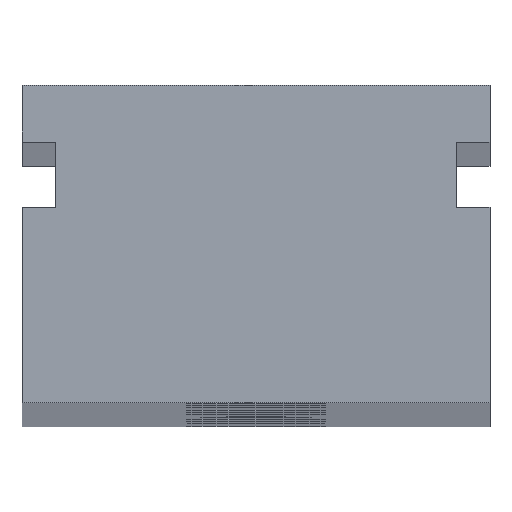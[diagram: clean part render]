
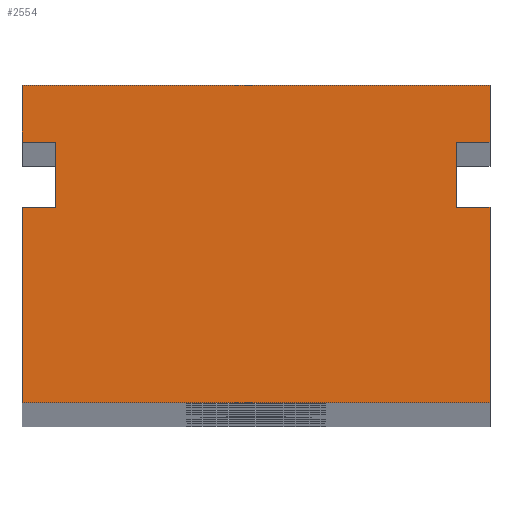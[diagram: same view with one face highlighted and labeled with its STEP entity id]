
A CAD part, top view. The second image highlights one B-rep face of the part: STEP entity #2554.
In plain terms, the highlighted planar face has unit normal (0, 0, 1).
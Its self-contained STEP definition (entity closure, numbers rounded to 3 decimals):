
#16 = EDGE_LOOP ( 'NONE', ( #484, #798, #1123, #2591, #695, #2480, #2596, #2615, #2637, #1250, #2539, #2333 ) ) ;
#135 = CARTESIAN_POINT ( 'NONE',  ( 4.915, 0.9, 340. ) ) ;
#171 = FACE_OUTER_BOUND ( 'NONE', #16, .T. ) ;
#189 = VECTOR ( 'NONE', #2484, 1000. ) ;
#193 = VERTEX_POINT ( 'NONE', #2394 ) ;
#207 = VERTEX_POINT ( 'NONE', #1769 ) ;
#256 = EDGE_CURVE ( 'NONE', #966, #765, #2156, .T. ) ;
#301 = DIRECTION ( 'NONE',  ( -1., 0., 0. ) ) ;
#306 = CARTESIAN_POINT ( 'NONE',  ( -4.915, 0.9, 340. ) ) ;
#316 = CARTESIAN_POINT ( 'NONE',  ( 5.75, 0.9, 340. ) ) ;
#329 = CARTESIAN_POINT ( 'NONE',  ( 5.75, 3.9, 340. ) ) ;
#352 = VERTEX_POINT ( 'NONE', #2268 ) ;
#353 = DIRECTION ( 'NONE',  ( 1., 0., 0. ) ) ;
#370 = LINE ( 'NONE', #1791, #1983 ) ;
#375 = LINE ( 'NONE', #2232, #1864 ) ;
#377 = VECTOR ( 'NONE', #353, 1000. ) ;
#395 = CARTESIAN_POINT ( 'NONE',  ( -5.75, -3.9, 340. ) ) ;
#484 = ORIENTED_EDGE ( 'NONE', *, *, #1409, .T. ) ;
#572 = LINE ( 'NONE', #2656, #748 ) ;
#611 = EDGE_CURVE ( 'NONE', #207, #1715, #2453, .T. ) ;
#683 = CARTESIAN_POINT ( 'NONE',  ( 5.75, -3.9, 340. ) ) ;
#695 = ORIENTED_EDGE ( 'NONE', *, *, #1926, .T. ) ;
#703 = CARTESIAN_POINT ( 'NONE',  ( 4.915, 2.5, 340. ) ) ;
#729 = LINE ( 'NONE', #1718, #1203 ) ;
#740 = CARTESIAN_POINT ( 'NONE',  ( -5.75, -3.9, 340. ) ) ;
#748 = VECTOR ( 'NONE', #1193, 1000. ) ;
#765 = VERTEX_POINT ( 'NONE', #2382 ) ;
#798 = ORIENTED_EDGE ( 'NONE', *, *, #256, .F. ) ;
#906 = LINE ( 'NONE', #740, #2375 ) ;
#908 = VERTEX_POINT ( 'NONE', #1077 ) ;
#950 = PLANE ( 'NONE',  #2616 ) ;
#966 = VERTEX_POINT ( 'NONE', #135 ) ;
#968 = CARTESIAN_POINT ( 'NONE',  ( 5.75, 2.5, 340. ) ) ;
#985 = VERTEX_POINT ( 'NONE', #329 ) ;
#1048 = VECTOR ( 'NONE', #2075, 1000. ) ;
#1049 = VERTEX_POINT ( 'NONE', #306 ) ;
#1050 = EDGE_CURVE ( 'NONE', #908, #193, #1119, .T. ) ;
#1077 = CARTESIAN_POINT ( 'NONE',  ( -4.915, 2.5, 340. ) ) ;
#1119 = LINE ( 'NONE', #1909, #2246 ) ;
#1123 = ORIENTED_EDGE ( 'NONE', *, *, #2014, .F. ) ;
#1169 = DIRECTION ( 'NONE',  ( 0., 0., -1. ) ) ;
#1193 = DIRECTION ( 'NONE',  ( -1., 0., 0. ) ) ;
#1198 = DIRECTION ( 'NONE',  ( 0., 1., 0. ) ) ;
#1203 = VECTOR ( 'NONE', #301, 1000. ) ;
#1225 = EDGE_CURVE ( 'NONE', #207, #1049, #2278, .T. ) ;
#1250 = ORIENTED_EDGE ( 'NONE', *, *, #1225, .F. ) ;
#1257 = CARTESIAN_POINT ( 'NONE',  ( -5.75, 0.9, 340. ) ) ;
#1395 = CARTESIAN_POINT ( 'NONE',  ( 4.915, 2.5, 340. ) ) ;
#1409 = EDGE_CURVE ( 'NONE', #1468, #765, #375, .T. ) ;
#1468 = VERTEX_POINT ( 'NONE', #683 ) ;
#1645 = CARTESIAN_POINT ( 'NONE',  ( 5.75, -3.9, 340. ) ) ;
#1687 = LINE ( 'NONE', #1645, #2021 ) ;
#1715 = VERTEX_POINT ( 'NONE', #2218 ) ;
#1718 = CARTESIAN_POINT ( 'NONE',  ( -5.75, 3.9, 340. ) ) ;
#1749 = DIRECTION ( 'NONE',  ( 1., 0., 0. ) ) ;
#1769 = CARTESIAN_POINT ( 'NONE',  ( -5.75, 0.9, 340. ) ) ;
#1786 = CARTESIAN_POINT ( 'NONE',  ( 0., 0., 340. ) ) ;
#1791 = CARTESIAN_POINT ( 'NONE',  ( -4.915, 2.5, 340. ) ) ;
#1826 = DIRECTION ( 'NONE',  ( 0., 1., 0. ) ) ;
#1856 = VECTOR ( 'NONE', #1749, 1000. ) ;
#1864 = VECTOR ( 'NONE', #1198, 1000. ) ;
#1909 = CARTESIAN_POINT ( 'NONE',  ( -5.75, 2.5, 340. ) ) ;
#1926 = EDGE_CURVE ( 'NONE', #2085, #985, #1687, .T. ) ;
#1936 = DIRECTION ( 'NONE',  ( -1., 0., 0. ) ) ;
#1946 = VECTOR ( 'NONE', #2354, 1000. ) ;
#1968 = LINE ( 'NONE', #703, #1946 ) ;
#1970 = EDGE_CURVE ( 'NONE', #352, #193, #906, .T. ) ;
#1983 = VECTOR ( 'NONE', #1826, 1000. ) ;
#2014 = EDGE_CURVE ( 'NONE', #2159, #966, #1968, .T. ) ;
#2021 = VECTOR ( 'NONE', #2264, 1000. ) ;
#2022 = CARTESIAN_POINT ( 'NONE',  ( -5.75, -3.9, 340. ) ) ;
#2062 = EDGE_CURVE ( 'NONE', #985, #352, #729, .T. ) ;
#2075 = DIRECTION ( 'NONE',  ( 1., 0., 0. ) ) ;
#2085 = VERTEX_POINT ( 'NONE', #968 ) ;
#2137 = EDGE_CURVE ( 'NONE', #1049, #908, #370, .T. ) ;
#2145 = EDGE_CURVE ( 'NONE', #2085, #2159, #572, .T. ) ;
#2150 = DIRECTION ( 'NONE',  ( 0., -1., 0. ) ) ;
#2156 = LINE ( 'NONE', #316, #1856 ) ;
#2159 = VERTEX_POINT ( 'NONE', #1395 ) ;
#2218 = CARTESIAN_POINT ( 'NONE',  ( -5.75, -3.9, 340. ) ) ;
#2232 = CARTESIAN_POINT ( 'NONE',  ( 5.75, -3.9, 340. ) ) ;
#2246 = VECTOR ( 'NONE', #1936, 1000. ) ;
#2264 = DIRECTION ( 'NONE',  ( 0., 1., 0. ) ) ;
#2268 = CARTESIAN_POINT ( 'NONE',  ( -5.75, 3.9, 340. ) ) ;
#2278 = LINE ( 'NONE', #1257, #1048 ) ;
#2333 = ORIENTED_EDGE ( 'NONE', *, *, #2620, .T. ) ;
#2354 = DIRECTION ( 'NONE',  ( 0., -1., 0. ) ) ;
#2375 = VECTOR ( 'NONE', #2150, 1000. ) ;
#2382 = CARTESIAN_POINT ( 'NONE',  ( 5.75, 0.9, 340. ) ) ;
#2386 = DIRECTION ( 'NONE',  ( -1., 0., 0. ) ) ;
#2394 = CARTESIAN_POINT ( 'NONE',  ( -5.75, 2.5, 340. ) ) ;
#2420 = LINE ( 'NONE', #2022, #377 ) ;
#2453 = LINE ( 'NONE', #395, #189 ) ;
#2480 = ORIENTED_EDGE ( 'NONE', *, *, #2062, .T. ) ;
#2484 = DIRECTION ( 'NONE',  ( 0., -1., 0. ) ) ;
#2539 = ORIENTED_EDGE ( 'NONE', *, *, #611, .T. ) ;
#2554 = ADVANCED_FACE ( 'NONE', ( #171 ), #950, .F. ) ;
#2591 = ORIENTED_EDGE ( 'NONE', *, *, #2145, .F. ) ;
#2596 = ORIENTED_EDGE ( 'NONE', *, *, #1970, .T. ) ;
#2615 = ORIENTED_EDGE ( 'NONE', *, *, #1050, .F. ) ;
#2616 = AXIS2_PLACEMENT_3D ( 'NONE', #1786, #1169, #2386 ) ;
#2620 = EDGE_CURVE ( 'NONE', #1715, #1468, #2420, .T. ) ;
#2637 = ORIENTED_EDGE ( 'NONE', *, *, #2137, .F. ) ;
#2656 = CARTESIAN_POINT ( 'NONE',  ( 5.75, 2.5, 340. ) ) ;
